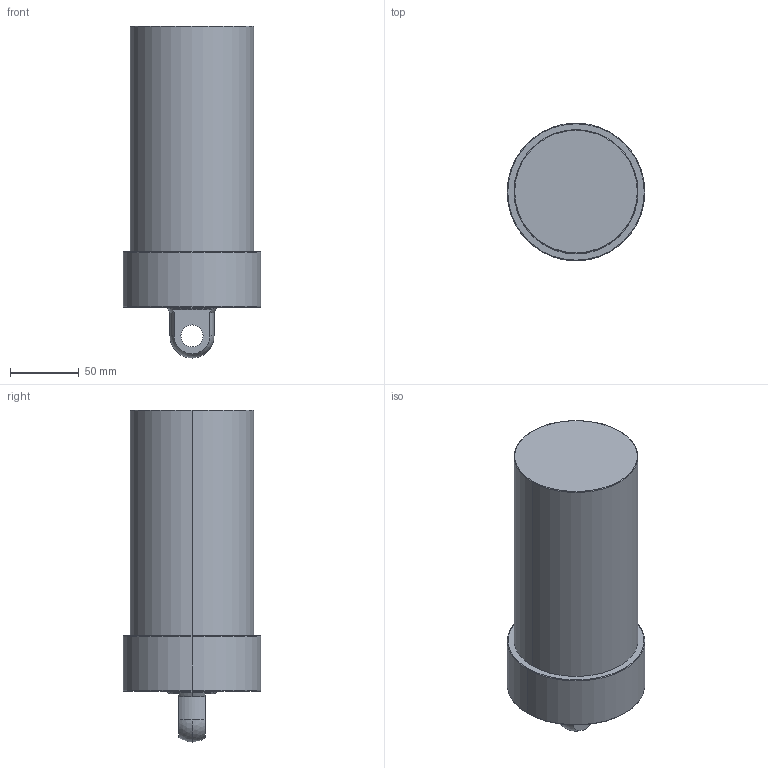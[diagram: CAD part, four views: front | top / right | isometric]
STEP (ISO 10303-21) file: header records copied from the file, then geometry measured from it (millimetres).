
FILE_DESCRIPTION (( 'STEP AP203' ), '1' );
FILE_NAME ('CLLU-090GP-120.STEP', '2020-01-15T01:48:28', ( '' ), ( '' ), 'SwSTEP 2.0', 'SolidWorks 2015', '' );
FILE_SCHEMA (( 'CONFIG_CONTROL_DESIGN' ));
Length unit declared in the file: millimetre
Products named in the file (1): CLLU-090GP-120
Bounding box: 100 x 100 x 241 mm (x, y, z)
Volume: 1366485.1 mm3; surface area: 80825.2 mm2
Topology: 1 solids, 1 shells, 58 faces, 131 edges, 75 vertices
Faces by surface type: cylinder 23, cone 18, plane 9, torus 6, sphere 2
Entity records: 1658 total; most frequent: DIRECTION 311, CARTESIAN_POINT 269, ORIENTED_EDGE 246, AXIS2_PLACEMENT_3D 133, EDGE_CURVE 123, VERTEX_POINT 75, CIRCLE 74, EDGE_LOOP 68
